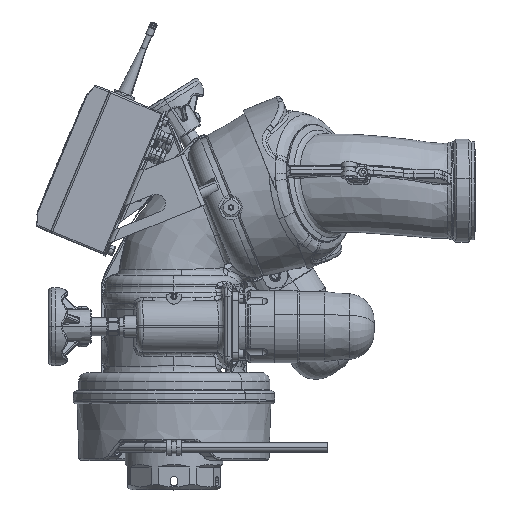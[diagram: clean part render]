
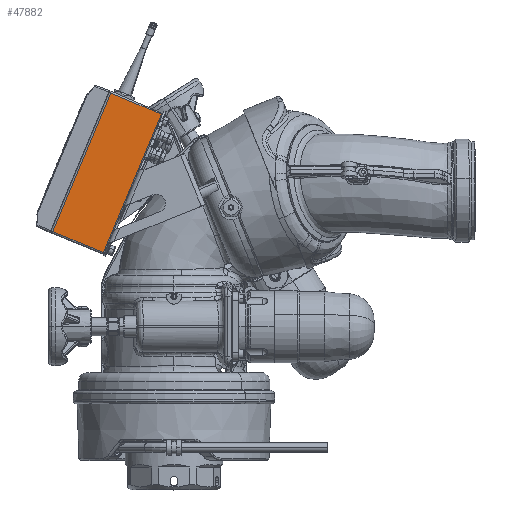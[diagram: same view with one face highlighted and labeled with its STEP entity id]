
A CAD part, top view. The second image highlights one B-rep face of the part: STEP entity #47882.
In plain terms, the highlighted planar face has unit normal (0.013, -0.005, 1).
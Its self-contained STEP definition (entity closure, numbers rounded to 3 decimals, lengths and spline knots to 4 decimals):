
#6451 = VERTEX_POINT ( 'NONE', #144273 ) ;
#9553 = VECTOR ( 'NONE', #128230, 39.3701 ) ;
#13588 = VECTOR ( 'NONE', #181632, 39.3701 ) ;
#14347 = EDGE_CURVE ( 'NONE', #6451, #171796, #26787, .T. ) ;
#19322 = CARTESIAN_POINT ( 'NONE',  ( -4.0203, 6.9407, 2.5155 ) ) ;
#22637 = FACE_OUTER_BOUND ( 'NONE', #203888, .T. ) ;
#22960 = EDGE_CURVE ( 'NONE', #141482, #6451, #157154, .T. ) ;
#26787 = LINE ( 'NONE', #49958, #9553 ) ;
#36682 = CARTESIAN_POINT ( 'NONE',  ( -8.5262, 2.1695, 2.5479 ) ) ;
#41747 = ORIENTED_EDGE ( 'NONE', *, *, #90242, .T. ) ;
#44746 = EDGE_CURVE ( 'NONE', #77988, #171796, #55571, .T. ) ;
#47882 = ADVANCED_FACE ( 'NONE', ( #22637 ), #71727, .T. ) ;
#49958 = CARTESIAN_POINT ( 'NONE',  ( -8.4607, 2.1421, 2.5469 ) ) ;
#55571 = LINE ( 'NONE', #36682, #152151 ) ;
#71727 = PLANE ( 'NONE',  #179482 ) ;
#74243 = CARTESIAN_POINT ( 'NONE',  ( -6.3887, 1.2759, 2.5155 ) ) ;
#77988 = VERTEX_POINT ( 'NONE', #74243 ) ;
#86209 = CARTESIAN_POINT ( 'NONE',  ( -6.1578, 7.8343, 2.5479 ) ) ;
#88747 = CARTESIAN_POINT ( 'NONE',  ( -4.0203, 6.9407, 2.5155 ) ) ;
#90242 = EDGE_CURVE ( 'NONE', #77988, #141482, #139664, .T. ) ;
#113116 = CARTESIAN_POINT ( 'NONE',  ( -8.4607, 2.1421, 2.5469 ) ) ;
#118842 = DIRECTION ( 'NONE',  ( 0.013, -0.005, 1. ) ) ;
#127377 = VECTOR ( 'NONE', #130091, 39.3701 ) ;
#128230 = DIRECTION ( 'NONE',  ( -0.386, -0.923, 0. ) ) ;
#130091 = DIRECTION ( 'NONE',  ( 0.386, 0.923, 0. ) ) ;
#136117 = CARTESIAN_POINT ( 'NONE',  ( -8.5262, 2.1695, 2.5479 ) ) ;
#139664 = LINE ( 'NONE', #19322, #127377 ) ;
#141482 = VERTEX_POINT ( 'NONE', #88747 ) ;
#144273 = CARTESIAN_POINT ( 'NONE',  ( -6.0923, 7.807, 2.5469 ) ) ;
#151340 = DIRECTION ( 'NONE',  ( -0.923, 0.386, 0.014 ) ) ;
#152151 = VECTOR ( 'NONE', #162651, 39.3701 ) ;
#153475 = ORIENTED_EDGE ( 'NONE', *, *, #22960, .T. ) ;
#157154 = LINE ( 'NONE', #86209, #13588 ) ;
#162651 = DIRECTION ( 'NONE',  ( -0.923, 0.386, 0.014 ) ) ;
#169376 = ORIENTED_EDGE ( 'NONE', *, *, #44746, .F. ) ;
#171796 = VERTEX_POINT ( 'NONE', #113116 ) ;
#179482 = AXIS2_PLACEMENT_3D ( 'NONE', #136117, #118842, #151340 ) ;
#181632 = DIRECTION ( 'NONE',  ( -0.923, 0.386, 0.014 ) ) ;
#197928 = ORIENTED_EDGE ( 'NONE', *, *, #14347, .T. ) ;
#203888 = EDGE_LOOP ( 'NONE', ( #169376, #41747, #153475, #197928 ) ) ;
